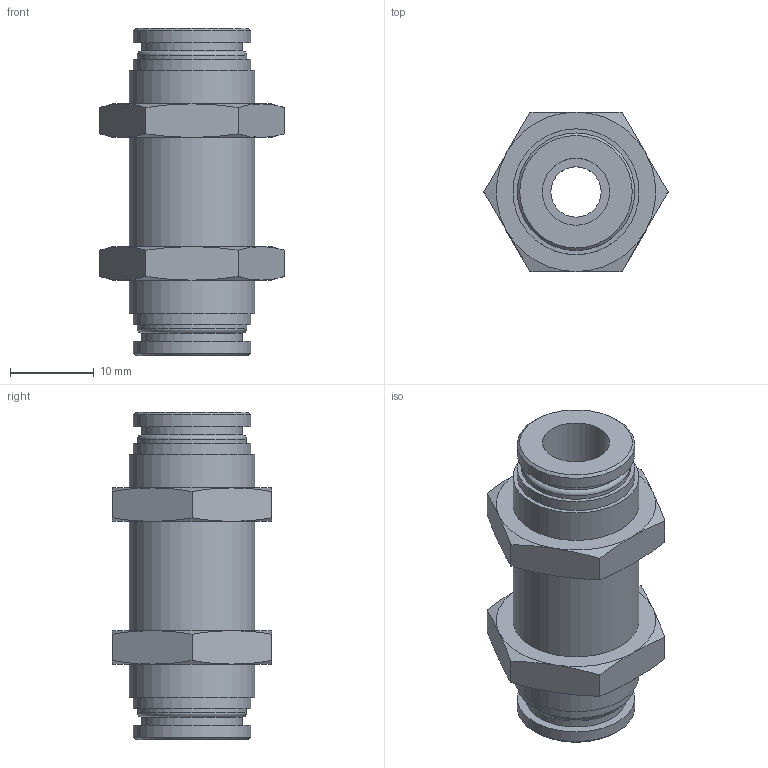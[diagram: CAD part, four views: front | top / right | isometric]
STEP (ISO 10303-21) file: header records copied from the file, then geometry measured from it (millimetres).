
FILE_DESCRIPTION(/* description */ (''),/* implementation_level */ '2;1');
FILE_NAME(/* name */ 'LXH13 0808 00.stp',/* time_stamp */ '2026-04-20T19:56:39+02:00',/* author */ ('freju'),/* organization */ (''),/* preprocessor_version */ 'ST-DEVELOPER v20.1',/* originating_system */ 'Autodesk Inventor 2026',/* authorisation */ '');
FILE_SCHEMA (('AUTOMOTIVE_DESIGN { 1 0 10303 214 3 1 1 }'));
Length unit declared in the file: millimetre
Products named in the file (1): LXH13 0808 00
Bounding box: 21.94 x 19 x 39 mm (x, y, z)
Volume: 5762.1 mm3; surface area: 3819.2 mm2
Topology: 1 solids, 1 shells, 68 faces, 138 edges, 84 vertices
Faces by surface type: cone 26, plane 26, cylinder 14, torus 2
Full cylindrical faces by diameter (mm): 6 x1, 8 x2, 12 x2, 13 x2, 14 x4, 15 x3
Entity records: 1771 total; most frequent: CARTESIAN_POINT 387, DIRECTION 290, ORIENTED_EDGE 276, EDGE_CURVE 138, AXIS2_PLACEMENT_3D 131, VERTEX_POINT 84, EDGE_LOOP 82, FACE_OUTER_BOUND 68
